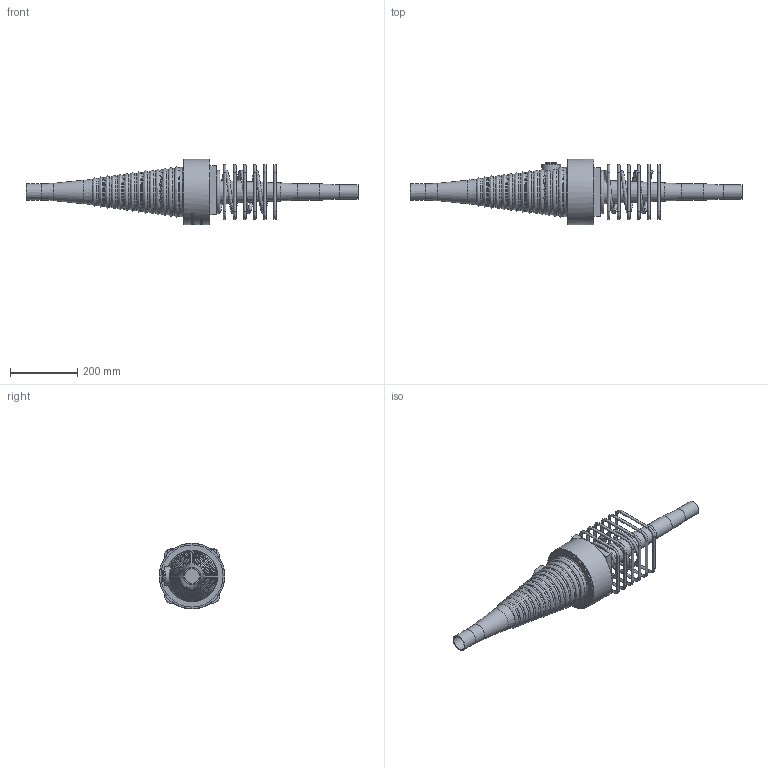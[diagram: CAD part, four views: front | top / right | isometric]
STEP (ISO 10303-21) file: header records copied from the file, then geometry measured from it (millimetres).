
FILE_DESCRIPTION(/* description */ (''),/* implementation_level */ '2;1');
FILE_NAME(/* name */ 'Z:\04 Publications\05 Give-out\BBR\6_3D_Models\BBR VT CONA CMI\BBR VT CONA CMI SP\00306\BBR VT CONA CMI SP 306_Couler K Assembly_CS-34,28.stp',/* time_stamp */ '2017-05-05T13:35:01+02:00',/* author */ ('IP'),/* organization */ (''),/* preprocessor_version */ 'ST-DEVELOPER v16.1',/* originating_system */ 'Autodesk Inventor 2016',/* authorisation */ '');
FILE_SCHEMA (('AUTOMOTIVE_DESIGN { 1 0 10303 214 3 1 1 }'));
Length unit declared in the file: millimetre
Products named in the file (1): BBR VT CONA CMI SP 306_Couler K Assembly_CS-34,28
Bounding box: 988.33 x 195 x 195.1 mm (x, y, z)
Volume: 4386296 mm3; surface area: 635834.6 mm2
Topology: 9 solids, 9 shells, 952 faces, 2436 edges, 1549 vertices
Faces by surface type: bspline 392, plane 297, torus 121, cylinder 93, cone 37, sphere 12
Full cylindrical faces by diameter (mm): 8 x24, 34.158 x1, 42 x1, 49 x1, 50 x1, 57 x1, 195 x1
Entity records: 36902 total; most frequent: CARTESIAN_POINT 16497, ORIENTED_EDGE 4506, DIRECTION 3186, EDGE_CURVE 2252, VERTEX_POINT 1534, EDGE_LOOP 1181, AXIS2_PLACEMENT_3D 1157, FACE_OUTER_BOUND 951
